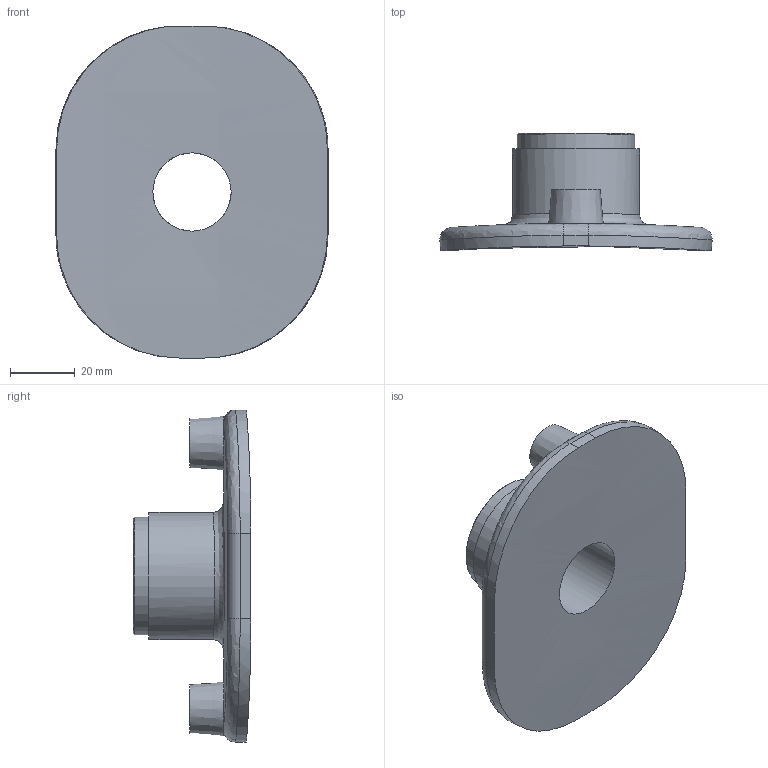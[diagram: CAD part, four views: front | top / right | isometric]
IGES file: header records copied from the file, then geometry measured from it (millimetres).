
Global section: file name: 5938S3900010.ipt; native system: Autodesk Inventor 2019; preprocessor: unknown; author: 12HКирилл; date: 20210830.101209; units: inch
Bounding box: 84.33 x 36.5 x 102.87 mm (x, y, z)
Volume: 68432.9 mm3; surface area: 23735.5 mm2
Topology: 1 solids, 1 shells, 43 faces, 93 edges, 59 vertices
Faces by surface type: plane 12, cylinder 12, revolution 11, bspline 5, cone 3
Full cylindrical faces by diameter (mm): 4 x2, 36.349 x1, 39.378 x1
